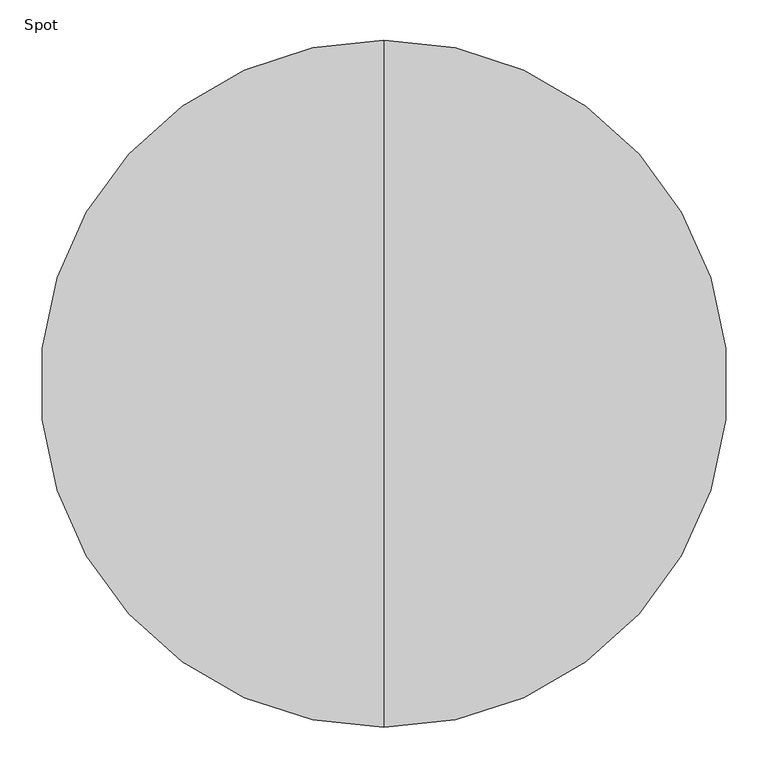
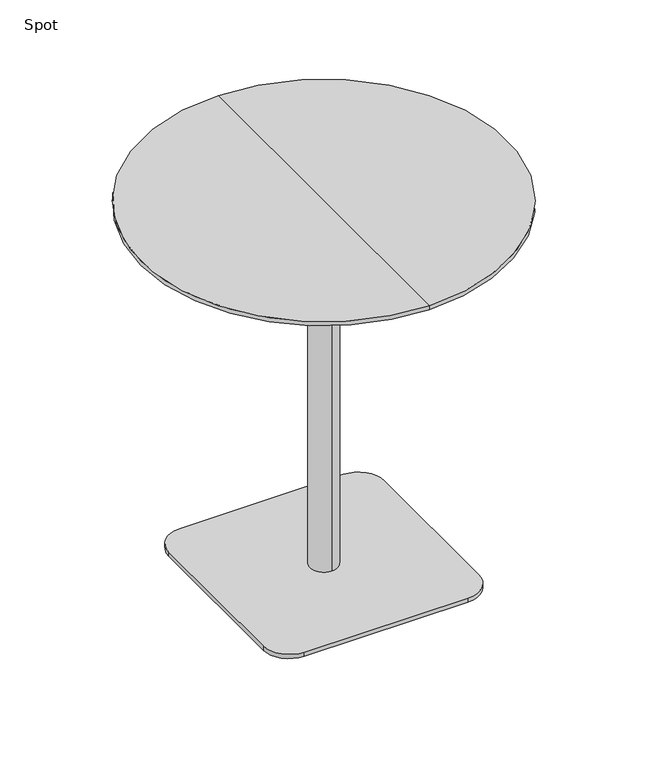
"""IFC4 building model written with IfcOpenShell, lengths in millimetres: furniture geometry, Spot : ø85x90s."""

from ifc_helpers import new_model, si_unit, point, frame, frame_2d, origin, origin_with_axes, place, context, project, spatial, polyline, circle_curve, trimmed, segment, composite_curve, outline, extrude, source, transform, mapped, element, save
from ifc_brep_helpers import plane_surface, cylinder_surface, revolved_surface, advanced_brep


def spot_18fd03e7(model_context):
    return source(origin(), model_context, "Body", "SolidModel", [
        advanced_brep(
        [(0.0, 425.0, 900.0), (0.0, -425.0, 900.0), (0.0, 0.0, 900.0), (0.0, 425.0, 890.25), (0.0, -425.0, 890.25), (0.0, 379.2823776, 878.0), (0.0, -379.2823776, 878.0), (0.0, 0.0, 878.0)],
        [
            (0, 1, circle_curve(frame((0.0, 0.0, 900.0), z_axis=(0.0, 0.0, 1.0), x_axis=(0.0, -1.0, 0.0)), 425.0)),
            (1, 2),
            (2, 0),
            (1, 0, circle_curve(frame((0.0, 0.0, 900.0), z_axis=(0.0, 0.0, 1.0), x_axis=(0.0, -1.0, 0.0)), 425.0)),
            (3, 4, circle_curve(frame((0.0, 0.0, 890.25), z_axis=(0.0, 0.0, 1.0), x_axis=(0.0, -1.0, 0.0)), 425.0)),
            (4, 1),
            (0, 3),
            (4, 3, circle_curve(frame((0.0, 0.0, 890.25), z_axis=(0.0, 0.0, 1.0), x_axis=(0.0, -1.0, 0.0)), 425.0)),
            (5, 6, circle_curve(frame((0.0, 0.0, 878.0), z_axis=(0.0, 0.0, 1.0), x_axis=(0.0, -1.0, 0.0)), 379.2823776)),
            (6, 4),
            (3, 5),
            (6, 5, circle_curve(frame((0.0, 0.0, 878.0), z_axis=(0.0, 0.0, 1.0), x_axis=(0.0, -1.0, 0.0)), 379.2823776)),
            (7, 6),
            (5, 7),
        ],
        [
            plane_surface(frame((0.0, 0.0, 900.0), z_axis=(0.0, 0.0, 1.0), x_axis=(0.0, -1.0, 0.0))),
            cylinder_surface(frame((0.0, 0.0, 980.0), z_axis=(0.0, 0.0, -1.0), x_axis=(0.0, -1.0, 0.0)), 425.0),
            revolved_surface(polyline([(0.0, -425.0, 890.25), (0.0, -379.2823776, 878.0)]), (0.0, 0.0, 980.0), (0.0, 0.0, -1.0)),
            plane_surface(frame((0.0, 0.0, 878.0), z_axis=(0.0, 0.0, -1.0), x_axis=(0.0, -1.0, 0.0))),
        ],
        [
            (0, [[1, 2, 3]]),
            (0, [[4, -3, -2]]),
            (1, [[5, 6, -1, 7]]),
            (1, [[8, -7, -4, -6]]),
            (2, [[9, 10, -5, 11]]),
            (2, [[12, -11, -8, -10]]),
            (3, [[13, -9, 14]]),
            (3, [[-14, -12, -13]]),
        ],
    ),
        extrude(outline(composite_curve([segment(trimmed(circle_curve(frame_2d((190.0, 190.0)), 60.0), [point((190.0, 250.0))], [point((250.0, 190.0))], False, "CARTESIAN"), True, "CONTINUOUS"), segment(polyline([(250.0, 190.0), (250.0, -190.0)]), True, "CONTINUOUS"), segment(trimmed(circle_curve(frame_2d((190.0, -190.0)), 60.0), [point((250.0, -190.0))], [point((190.0, -250.0))], False, "CARTESIAN"), True, "CONTINUOUS"), segment(polyline([(190.0, -250.0), (-190.0, -250.0)]), True, "CONTINUOUS"), segment(trimmed(circle_curve(frame_2d((-190.0, -190.0)), 60.0), [point((-190.0, -250.0))], [point((-250.0, -190.0))], False, "CARTESIAN"), True, "CONTINUOUS"), segment(polyline([(-250.0, -190.0), (-250.0, 190.0)]), True, "CONTINUOUS"), segment(trimmed(circle_curve(frame_2d((-190.0, 190.0)), 60.0), [point((-250.0, 190.0))], [point((-190.0, 250.0))], False, "CARTESIAN"), True, "CONTINUOUS"), segment(polyline([(-190.0, 250.0), (190.0, 250.0)]), True, "CONTINUOUS")], self_intersect=False)), origin_with_axes(), (0.0, 0.0, 1.0), 10.0),
        advanced_brep(
        [(0.0, 32.0, 10.0), (0.0, -32.0, 10.0), (0.0, -32.0, 847.406916), (0.0, 32.0, 847.406916), (0.0, 0.0, 10.0), (0.0, 150.0, 878.0), (0.0, -150.0, 878.0), (0.0, 0.0, 878.0), (0.0, 150.0, 866.7213673), (0.0, -150.0, 866.7213673)],
        [
            (0, 1, circle_curve(frame((0.0, 0.0, 10.0), z_axis=(0.0, 0.0, 1.0), x_axis=(0.0, -1.0, 0.0)), 32.0)),
            (1, 2),
            (2, 3, circle_curve(frame((0.0, 0.0, 847.406916), z_axis=(0.0, 0.0, -1.0), x_axis=(0.0, -1.0, 0.0)), 32.0)),
            (3, 0),
            (1, 0, circle_curve(frame((0.0, 0.0, 10.0), z_axis=(0.0, 0.0, 1.0), x_axis=(0.0, -1.0, 0.0)), 32.0)),
            (3, 2, circle_curve(frame((0.0, 0.0, 847.406916), z_axis=(0.0, 0.0, -1.0), x_axis=(0.0, -1.0, 0.0)), 32.0)),
            (4, 1),
            (0, 4),
            (5, 6, circle_curve(frame((0.0, 0.0, 878.0), z_axis=(0.0, 0.0, 1.0), x_axis=(0.0, -1.0, 0.0)), 150.0)),
            (6, 7),
            (7, 5),
            (6, 5, circle_curve(frame((0.0, 0.0, 878.0), z_axis=(0.0, 0.0, 1.0), x_axis=(0.0, -1.0, 0.0)), 150.0)),
            (8, 9, circle_curve(frame((0.0, 0.0, 866.7213673), z_axis=(0.0, 0.0, 1.0), x_axis=(0.0, -1.0, 0.0)), 150.0)),
            (9, 6),
            (5, 8),
            (9, 8, circle_curve(frame((0.0, 0.0, 866.7213673), z_axis=(0.0, 0.0, 1.0), x_axis=(0.0, -1.0, 0.0)), 150.0)),
            (2, 9),
            (8, 3),
        ],
        [
            cylinder_surface(frame((0.0, 0.0, 1240.0), z_axis=(0.0, 0.0, -1.0), x_axis=(0.0, -1.0, 0.0)), 32.0),
            plane_surface(frame((0.0, 0.0, 10.0), z_axis=(0.0, 0.0, -1.0), x_axis=(0.0, -1.0, 0.0))),
            plane_surface(frame((0.0, 0.0, 878.0), z_axis=(0.0, 0.0, 1.0), x_axis=(0.0, -1.0, 0.0))),
            cylinder_surface(frame((0.0, 0.0, 1240.0), z_axis=(0.0, 0.0, -1.0), x_axis=(0.0, -1.0, 0.0)), 150.0),
            revolved_surface(polyline([(0.0, -150.0, 866.7213673), (0.0, -32.0, 847.406916)]), (0.0, 0.0, 1240.0), (0.0, 0.0, -1.0)),
        ],
        [
            (0, [[1, 2, 3, 4]]),
            (0, [[5, -4, 6, -2]]),
            (1, [[7, -1, 8]]),
            (1, [[-8, -5, -7]]),
            (2, [[9, 10, 11]]),
            (2, [[12, -11, -10]]),
            (3, [[13, 14, -9, 15]]),
            (3, [[16, -15, -12, -14]]),
            (4, [[-3, 17, -13, 18]]),
            (4, [[-6, -18, -16, -17]]),
        ],
    ),
        extrude(outline(polyline([(0.0, 0.0), (-20.0, 0.0), (-20.0, 20.0), (0.0, 20.0), (0.0, 0.0)])), origin_with_axes(), (0.0, 0.0, 1.0), 10.0),
    ])


if __name__ == "__main__":
    model = new_model("IFC4")
    model_context = context("Model", 3, world=origin())
    ifc_project = project(units=[si_unit("LENGTHUNIT", "METRE", prefix="MILLI")], contexts=[model_context])
    site = spatial("IfcSite", under=ifc_project)
    building = spatial("IfcBuilding", under=site)
    placement = place(None, origin())
    spot_shape = spot_18fd03e7(model_context)
    element("IfcFurniture", 1, ObjectType="Spot : ø85x90s", at=placement, inside=building, context=model_context, shape_type="MappedRepresentation", body=[
        mapped(spot_shape, transform((0.0, 0.0, 0.0), x_axis=(1.0, 0.0, 0.0), y_axis=(0.0, 1.0, 0.0), z_axis=(0.0, 0.0, 1.0))),
    ])
    save(model, "model.ifc")
